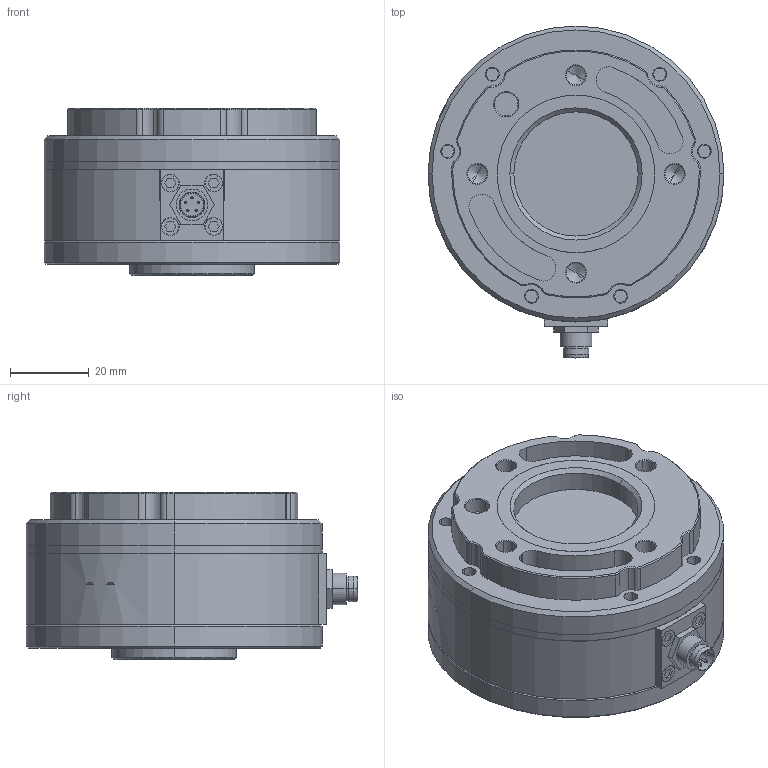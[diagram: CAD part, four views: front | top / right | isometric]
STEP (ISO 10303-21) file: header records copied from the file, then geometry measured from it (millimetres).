
FILE_DESCRIPTION(('CATIA V5 STEP Exchange'),'2;1');
FILE_NAME('D:\KunWeiTech_WorkingFiles\六轴力传感器\六轴力传感器KWR75C-JAKA-400N\WR75C-JAKA三维加工数模.stp','2022-06-08T16:32:35+00:00',('none'),('none'),'CATIA Version 5 Release 20 SP 5 (IN-10)','CATIA V5 STEP AP203','none');
FILE_SCHEMA(('CONFIG_CONTROL_DESIGN'));
Length unit declared in the file: millimetre
Products named in the file (1): 产品1_AllCATPart
Bounding box: 75 x 84.1 x 42.5 mm (x, y, z)
Volume: 125921.2 mm3; surface area: 49573.1 mm2
Topology: 19 solids, 28 shells, 810 faces, 1915 edges, 1193 vertices
Faces by surface type: cylinder 311, plane 300, cone 181, sphere 18
Entity records: 21306 total; most frequent: CARTESIAN_POINT 3960, ORIENTED_EDGE 3734, DIRECTION 2946, EDGE_CURVE 1867, AXIS2_PLACEMENT_3D 1427, VERTEX_POINT 1193, VECTOR 958, LINE 958
